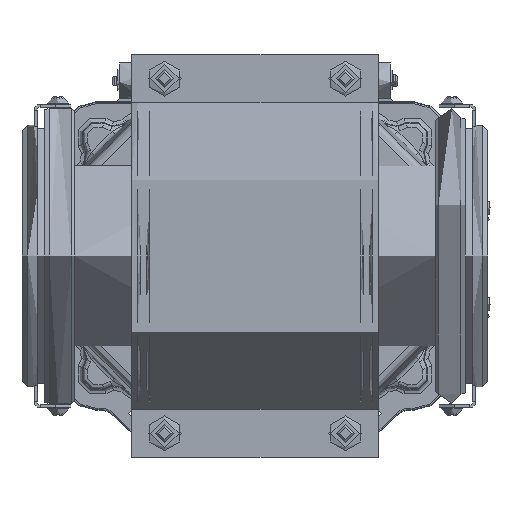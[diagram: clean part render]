
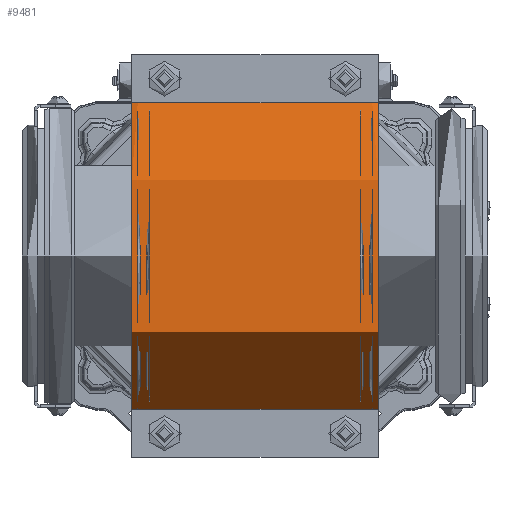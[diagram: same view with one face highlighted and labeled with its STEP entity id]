
A CAD part, front view. The second image highlights one B-rep face of the part: STEP entity #9481.
In plain terms, the highlighted cylindrical face has radius 51 mm (diameter 102 mm), a partial arc.
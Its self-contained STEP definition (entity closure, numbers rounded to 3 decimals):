
#9481=ADVANCED_FACE('',(#27420),#27422,.T.);
#27420=FACE_BOUND('',#27421,.T.);
#27421=EDGE_LOOP('',(#37395,#37396,#37397,#37398,#37399,#37400,#37401,#37402,#37403,
#37404));
#27422=CYLINDRICAL_SURFACE('',#27423,51.);
#27423=AXIS2_PLACEMENT_3D('',#27424,#27425,#27426);
#27424=CARTESIAN_POINT('',(41.,0.,-0.));
#27425=DIRECTION('',(-1.,0.,0.));
#27426=DIRECTION('',(0.,0.,-1.));
#37395=ORIENTED_EDGE('',*,*,#42335,.F.);
#37396=ORIENTED_EDGE('',*,*,#42254,.F.);
#37397=ORIENTED_EDGE('',*,*,#42327,.T.);
#37398=ORIENTED_EDGE('',*,*,#42336,.F.);
#37399=ORIENTED_EDGE('',*,*,#42318,.T.);
#37400=ORIENTED_EDGE('',*,*,#42317,.F.);
#37401=ORIENTED_EDGE('',*,*,#42304,.T.);
#37402=ORIENTED_EDGE('',*,*,#42337,.T.);
#37403=ORIENTED_EDGE('',*,*,#42307,.T.);
#37404=ORIENTED_EDGE('',*,*,#42262,.F.);
#42254=EDGE_CURVE('',#46564,#46566,#46567,.F.);
#42262=EDGE_CURVE('',#46578,#46580,#46581,.T.);
#42304=EDGE_CURVE('',#46492,#46644,#46646,.F.);
#42307=EDGE_CURVE('',#46650,#46580,#46651,.T.);
#42317=EDGE_CURVE('',#46492,#46500,#46666,.T.);
#42318=EDGE_CURVE('',#46667,#46500,#46668,.F.);
#42327=EDGE_CURVE('',#46564,#46679,#46681,.T.);
#42335=EDGE_CURVE('',#46566,#46578,#46694,.F.);
#42336=EDGE_CURVE('',#46667,#46679,#46695,.T.);
#42337=EDGE_CURVE('',#46644,#46650,#46696,.T.);
#46492=VERTEX_POINT('',#59908);
#46500=VERTEX_POINT('',#59926);
#46564=VERTEX_POINT('',#60135);
#46566=VERTEX_POINT('',#60139);
#46567=CIRCLE('',#60140,51.);
#46578=VERTEX_POINT('',#60166);
#46580=VERTEX_POINT('',#60170);
#46581=CIRCLE('',#60171,51.);
#46644=VERTEX_POINT('',#61818);
#46646=LINE('',#61822,#61823);
#46650=VERTEX_POINT('',#61834);
#46651=LINE('',#61835,#61836);
#46666=LINE('',#61870,#61871);
#46667=VERTEX_POINT('',#61873);
#46668=LINE('',#61874,#61875);
#46679=VERTEX_POINT('',#61903);
#46681=LINE('',#61907,#61908);
#46694=LINE('',#61938,#61939);
#46695=CIRCLE('',#61941,51.);
#46696=CIRCLE('',#61945,51.);
#59908=CARTESIAN_POINT('',(39.,-1.,-50.99));
#59926=CARTESIAN_POINT('',(-39.,-1.,-50.99));
#60135=CARTESIAN_POINT('',(-39.,-1.,50.99));
#60139=CARTESIAN_POINT('',(-39.,-2.,50.961));
#60140=AXIS2_PLACEMENT_3D('',#60141,#60142,#60143);
#60141=CARTESIAN_POINT('',(-39.,0.,0.));
#60142=DIRECTION('',(-1.,0.,0.));
#60143=DIRECTION('',(0.,-0.039,0.999));
#60166=CARTESIAN_POINT('',(39.,-2.,50.961));
#60170=CARTESIAN_POINT('',(39.,-1.,50.99));
#60171=AXIS2_PLACEMENT_3D('',#60172,#60173,#60174);
#60172=CARTESIAN_POINT('',(39.,0.,0.));
#60173=DIRECTION('',(-1.,0.,0.));
#60174=DIRECTION('',(0.,-0.039,0.999));
#61818=CARTESIAN_POINT('',(41.,-1.,-50.99));
#61822=CARTESIAN_POINT('',(41.,-1.,-50.99));
#61823=VECTOR('',#61824,1.);
#61824=DIRECTION('',(-1.,0.,0.));
#61834=CARTESIAN_POINT('',(41.,-1.,50.99));
#61835=CARTESIAN_POINT('',(41.,-1.,50.99));
#61836=VECTOR('',#61837,1.);
#61837=DIRECTION('',(-1.,0.,0.));
#61870=CARTESIAN_POINT('',(39.,-1.,-50.99));
#61871=VECTOR('',#61872,1.);
#61872=DIRECTION('',(-1.,0.,0.));
#61873=CARTESIAN_POINT('',(-41.,-1.,-50.99));
#61874=CARTESIAN_POINT('',(-39.,-1.,-50.99));
#61875=VECTOR('',#61876,1.);
#61876=DIRECTION('',(-1.,0.,0.));
#61903=CARTESIAN_POINT('',(-41.,-1.,50.99));
#61907=CARTESIAN_POINT('',(-39.,-1.,50.99));
#61908=VECTOR('',#61909,1.);
#61909=DIRECTION('',(-1.,0.,0.));
#61938=CARTESIAN_POINT('',(39.,-2.,50.961));
#61939=VECTOR('',#61940,1.);
#61940=DIRECTION('',(-1.,0.,0.));
#61941=AXIS2_PLACEMENT_3D('',#61942,#61943,#61944);
#61942=CARTESIAN_POINT('',(-41.,0.,0.));
#61943=DIRECTION('',(-1.,0.,0.));
#61944=DIRECTION('',(0.,-0.02,-1.));
#61945=AXIS2_PLACEMENT_3D('',#61946,#61947,#61948);
#61946=CARTESIAN_POINT('',(41.,0.,0.));
#61947=DIRECTION('',(-1.,0.,0.));
#61948=DIRECTION('',(0.,-0.02,-1.));
